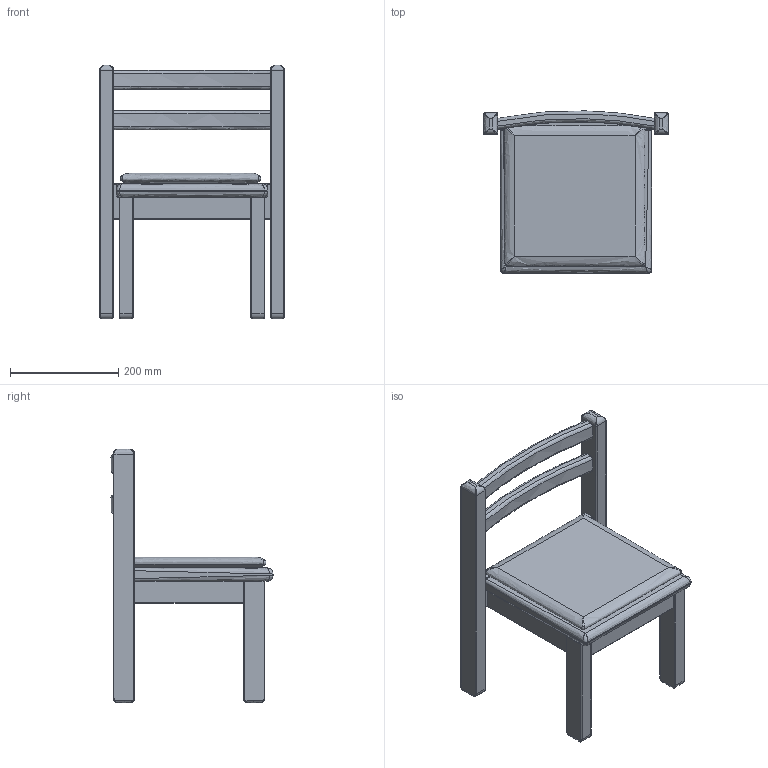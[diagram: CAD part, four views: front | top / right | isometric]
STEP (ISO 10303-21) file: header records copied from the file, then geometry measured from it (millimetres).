
FILE_DESCRIPTION(/* description */ (''),/* implementation_level */ '2;1');
FILE_NAME(/* name */ 'kinoshita_baobabaland_k127',/* time_stamp */ '2025-02-26T20:25:32+09:00',/* author */ (''),/* organization */ (''),/* preprocessor_version */ 'ST-DEVELOPER v16.5',/* originating_system */ '',/* authorisation */ '');
FILE_SCHEMA (('AUTOMOTIVE_DESIGN'));
Length unit declared in the file: millimetre
Products named in the file (1): Document
Bounding box: 342 x 299.83 x 470 mm (x, y, z)
Volume: 5986119 mm3; surface area: 643377.4 mm2
Topology: 2 solids, 2 shells, 217 faces, 651 edges, 400 vertices
Faces by surface type: bspline 142, plane 75
Entity records: 15986 total; most frequent: CARTESIAN_POINT 12321, ORIENTED_EDGE 1236, EDGE_CURVE 618, B_SPLINE_CURVE_WITH_KNOTS 456, VERTEX_POINT 400, EDGE_LOOP 224, ADVANCED_FACE 217, FACE_OUTER_BOUND 217
